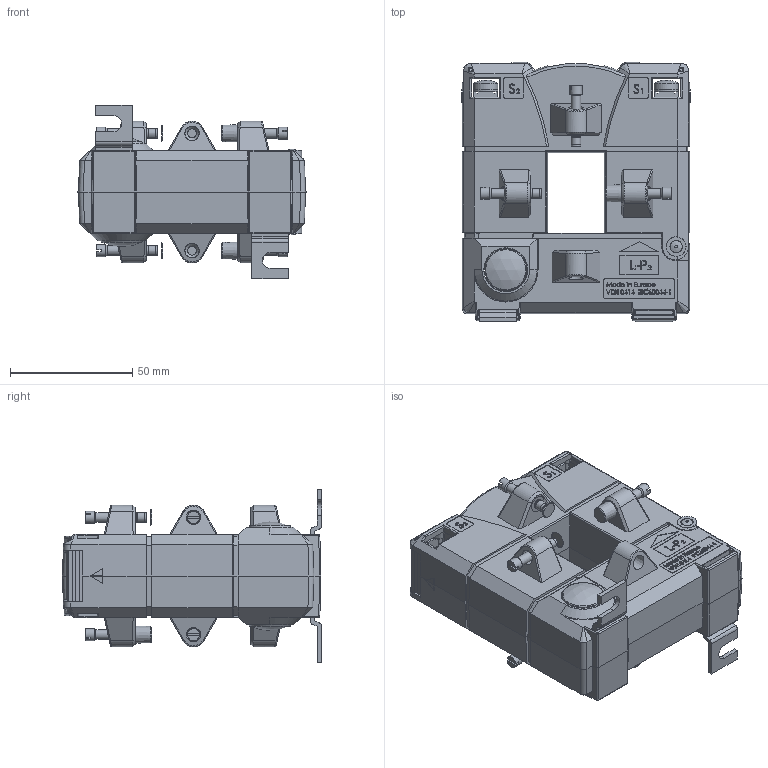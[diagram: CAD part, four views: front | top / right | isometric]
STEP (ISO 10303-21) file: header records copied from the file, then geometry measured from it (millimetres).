
FILE_DESCRIPTION(/* description */ (''),/* implementation_level */ '2;1');
FILE_NAME(/* name */ 'KBU23.stp',/* time_stamp */ '2024-03-06T09:43:48+01:00',/* author */ ('JDI'),/* organization */ (''),/* preprocessor_version */ 'ST-DEVELOPER v19.2',/* originating_system */ 'Autodesk Inventor 2023',/* authorisation */ '');
FILE_SCHEMA (('AUTOMOTIVE_DESIGN { 1 0 10303 214 3 1 1 }'));
Products named in the file (2): KBU23; KBU_23
Assembly tree (1 placements, depth 2):
  KBU23
    KBU_23
Bounding box: 93.4 x 106.15 x 71 mm (x, y, z)
Volume: 124420.4 mm3; surface area: 109502.5 mm2
Topology: 34 solids, 34 shells, 3116 faces, 8199 edges, 5254 vertices
Faces by surface type: plane 1801, cylinder 511, cone 375, bspline 265, torus 136, sphere 28
Full cylindrical faces by diameter (mm): 1.5 x4, 2 x2, 3 x10, 3.75 x8, 3.8 x6, 4 x6, 4.1 x6, 4.2 x4, 5 x13, 5.3 x4, 5.8 x2, 8 x1, 10 x8
Entity records: 116400 total; most frequent: CARTESIAN_POINT 39335, ORIENTED_EDGE 16374, DIRECTION 15308, EDGE_CURVE 8187, LINE 5364, VECTOR 5364, VERTEX_POINT 5253, AXIS2_PLACEMENT_3D 4972
